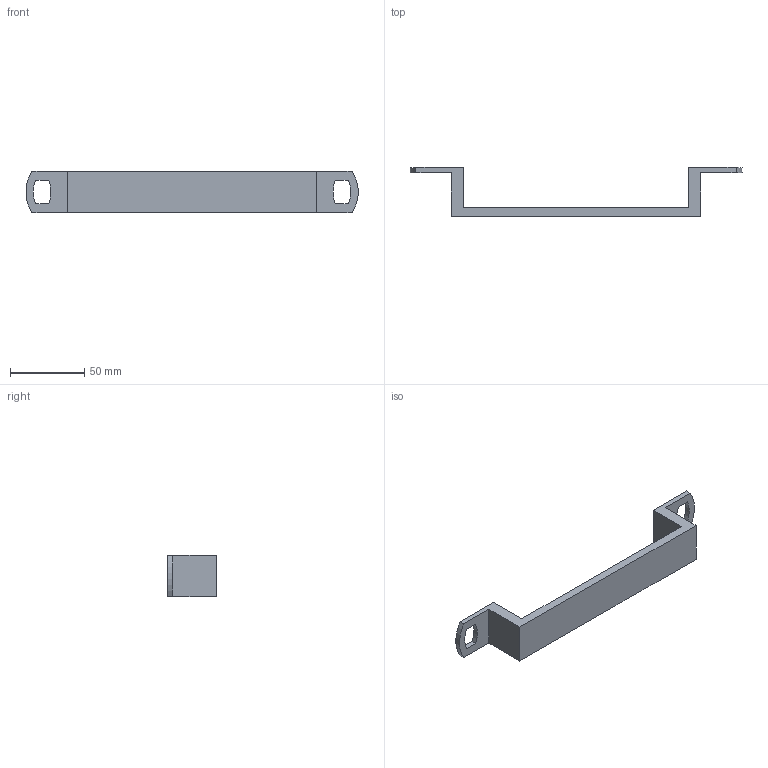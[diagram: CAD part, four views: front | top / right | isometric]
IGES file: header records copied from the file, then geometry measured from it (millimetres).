
Start section: Data from Parasolid IGES Translator 20.0.26, Copyright(c) 2006 Siemens P LM Software. All Rights Reserved.
Global section: file name: 9270230.igs; native system: By Siemens PLM Incorporated; preprocessor: XPlus GENERIC/IGES 20.0.26; author: Noname; organization: Noname; date: 20200630.122028; units: millimetre
Bounding box: 223.83 x 33 x 28 mm (x, y, z)
Surface area: 18836.9 mm2 (no closed solid volume)
Topology: 0 solids, 0 shells, 26 faces, 132 edges, 130 vertices
Faces by surface type: extrusion 18, revolution 8
